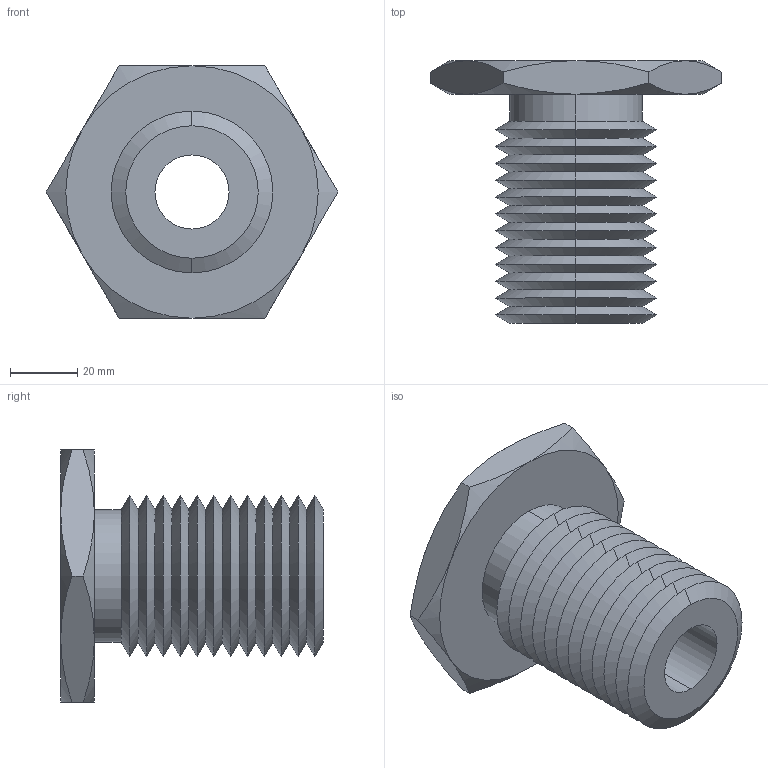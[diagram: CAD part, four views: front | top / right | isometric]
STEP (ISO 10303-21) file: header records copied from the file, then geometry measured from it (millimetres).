
FILE_DESCRIPTION (( 'STEP AP203' ), '1' );
FILE_NAME ('63302.W0048_M22x2,5.step', '2013-12-08T11:17:10', ( 'User' ), ( '' ), 'SwSTEP 2.0', 'SolidWorks 2009', '' );
FILE_SCHEMA (( 'CONFIG_CONTROL_DESIGN' ));
Length unit declared in the file: millimetre
Products named in the file (1): 63302.W0048_M22x2,5
Bounding box: 86.6 x 78 x 75 mm (x, y, z)
Volume: 117801.3 mm3; surface area: 33873.7 mm2
Topology: 1 solids, 1 shells, 75 faces, 154 edges, 82 vertices
Faces by surface type: cone 62, plane 9, cylinder 4
Entity records: 2139 total; most frequent: CARTESIAN_POINT 496, DIRECTION 352, ORIENTED_EDGE 308, EDGE_CURVE 154, AXIS2_PLACEMENT_3D 146, VERTEX_POINT 82, EDGE_LOOP 78, ADVANCED_FACE 75
